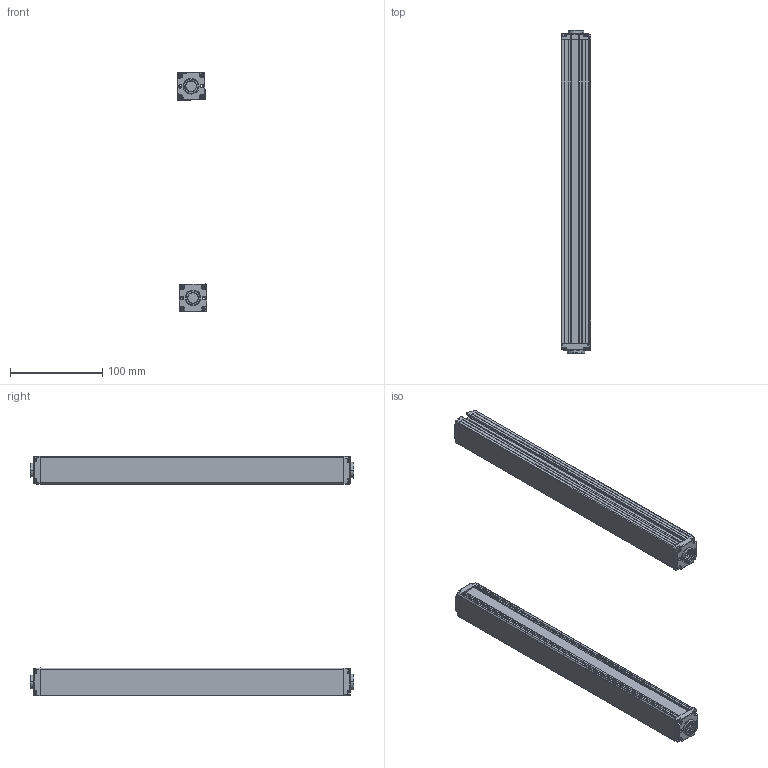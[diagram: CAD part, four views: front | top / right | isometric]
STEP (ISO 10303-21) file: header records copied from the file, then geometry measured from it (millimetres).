
FILE_DESCRIPTION (( 'STEP AP203' ), '1' );
FILE_NAME ('ZDA1620-330.STEP', '2022-08-30T07:28:26', ( 'Windows 蚚誧' ), ( 'Organization' ), 'SwSTEP 2.0', 'SolidWorks 2020', '' );
FILE_SCHEMA (( 'CONFIG_CONTROL_DESIGN' ));
Length unit declared in the file: millimetre
Products named in the file (5): 錨璃1; 錨璃10; 錨璃8; ZDA1620-330; 錨璃8 - 萵掛 (2)
Assembly tree (8 placements, depth 2):
  ZDA1620-330
    錨璃1  x2
    錨璃8  x2
    錨璃8 - 萵掛 (2)  x2
    錨璃10  x2
Bounding box: 32.36 x 351.4 x 260.35 mm (x, y, z)
Volume: 217329 mm3; surface area: 232164.1 mm2
Topology: 8 solids, 8 shells, 1032 faces, 2690 edges, 1668 vertices
Faces by surface type: plane 464, cylinder 310, cone 120, bspline 58, torus 48, sphere 32
Entity records: 17901 total; most frequent: CARTESIAN_POINT 4731, ORIENTED_EDGE 2666, DIRECTION 2616, EDGE_CURVE 1333, AXIS2_PLACEMENT_3D 894, VERTEX_POINT 834, VECTOR 828, LINE 828
